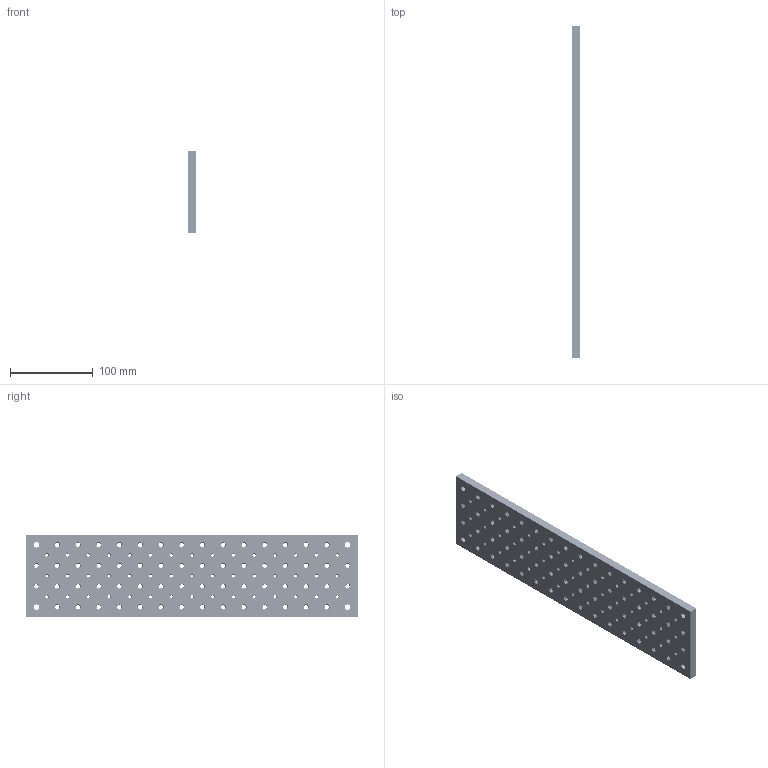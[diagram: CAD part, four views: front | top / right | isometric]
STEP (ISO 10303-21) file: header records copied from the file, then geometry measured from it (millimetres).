
FILE_DESCRIPTION((''),'2;1');
FILE_NAME('OHD4010-M','2020-10-27T',('Administrator'),(''),'CREO PARAMETRIC BY PTC INC, 2015290','CREO PARAMETRIC BY PTC INC, 2015290','');
FILE_SCHEMA(('CONFIG_CONTROL_DESIGN'));
Products named in the file (1): OHD4010-M
Bounding box: 10 x 400 x 100 mm (x, y, z)
Volume: 376785.2 mm3; surface area: 106798.2 mm2
Topology: 1 solids, 1 shells, 3841 faces, 10657 edges, 6822 vertices
Faces by surface type: cylinder 2221, bspline 1050, cone 428, plane 142
Entity records: 267943 total; most frequent: CARTESIAN_POINT 183742, ORIENTED_EDGE 21314, DIRECTION 11284, EDGE_CURVE 10657, VERTEX_POINT 6822, B_SPLINE_CURVE_WITH_KNOTS 5835, EDGE_LOOP 4063, VECTOR 3942
